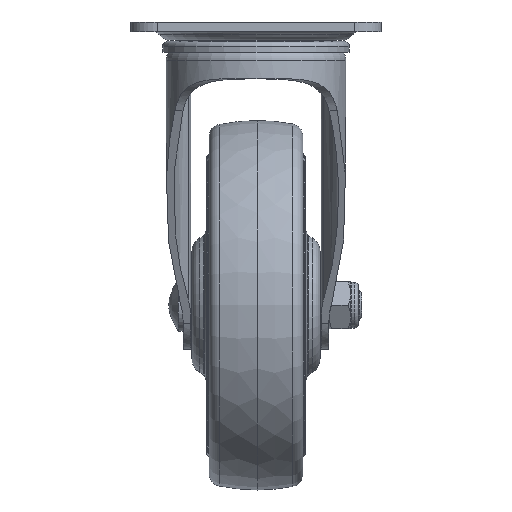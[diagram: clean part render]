
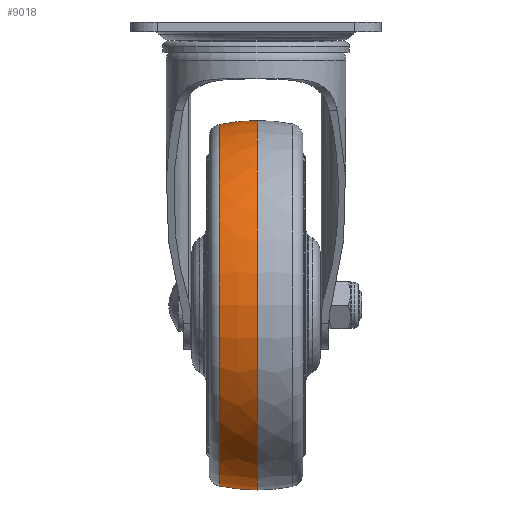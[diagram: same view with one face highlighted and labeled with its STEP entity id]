
A CAD part, left-side view. The second image highlights one B-rep face of the part: STEP entity #9018.
In plain terms, the highlighted free-form (B-spline) face has degree [2, 2] with [3, 9] control points.
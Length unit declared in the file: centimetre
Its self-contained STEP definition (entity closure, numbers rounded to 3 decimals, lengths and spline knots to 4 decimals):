
#1152=(
BOUNDED_CURVE()
B_SPLINE_CURVE(2,(#14911,#14912,#14913),.UNSPECIFIED.,.F.,.F.)
B_SPLINE_CURVE_WITH_KNOTS((3,3),(0.0063,0.2014),
 .UNSPECIFIED.)
CURVE()
GEOMETRIC_REPRESENTATION_ITEM()
RATIONAL_B_SPLINE_CURVE((1.,0.995,1.))
REPRESENTATION_ITEM('')
);
#1173=(
BOUNDED_SURFACE()
B_SPLINE_SURFACE(2,2,((#14880,#14881,#14882,#14883,#14884,#14885,#14886,
#14887,#14888),(#14889,#14890,#14891,#14892,#14893,#14894,#14895,#14896,
#14897),(#14898,#14899,#14900,#14901,#14902,#14903,#14904,#14905,#14906)),
 .UNSPECIFIED.,.F.,.T.,.F.)
B_SPLINE_SURFACE_WITH_KNOTS((3,3),(3,2,2,2,3),(-0.2014,-0.0063),
(-3.1416,-1.5708,0.,1.5708,3.1416),
 .UNSPECIFIED.)
GEOMETRIC_REPRESENTATION_ITEM()
RATIONAL_B_SPLINE_SURFACE(((1.,0.707,1.,0.707,1.,
0.707,1.,0.707,1.),(0.995,0.704,
0.995,0.704,0.995,0.704,
0.995,0.704,0.995),(1.,0.707,
1.,0.707,1.,0.707,1.,0.707,1.)))
REPRESENTATION_ITEM('')
SURFACE()
);
#2178=FACE_OUTER_BOUND('',#2774,.T.);
#2774=EDGE_LOOP('',(#6337,#6338,#6339,#6340,#6341,#6342));
#3516=CIRCLE('',#9691,7.3384);
#3517=CIRCLE('',#9692,7.3384);
#3518=CIRCLE('',#9693,7.4998);
#3519=CIRCLE('',#9694,7.4998);
#3926=VERTEX_POINT('',#14876);
#3927=VERTEX_POINT('',#14877);
#3928=VERTEX_POINT('',#14907);
#3929=VERTEX_POINT('',#14908);
#4865=EDGE_CURVE('',#3926,#3927,#3516,.T.);
#4866=EDGE_CURVE('',#3927,#3926,#3517,.T.);
#4867=EDGE_CURVE('',#3928,#3929,#3518,.T.);
#4868=EDGE_CURVE('',#3929,#3928,#3519,.T.);
#4869=EDGE_CURVE('',#3929,#3927,#1152,.T.);
#6337=ORIENTED_EDGE('',*,*,#4867,.F.);
#6338=ORIENTED_EDGE('',*,*,#4868,.F.);
#6339=ORIENTED_EDGE('',*,*,#4869,.T.);
#6340=ORIENTED_EDGE('',*,*,#4866,.T.);
#6341=ORIENTED_EDGE('',*,*,#4865,.T.);
#6342=ORIENTED_EDGE('',*,*,#4869,.F.);
#9018=ADVANCED_FACE('',(#2178),#1173,.F.);
#9691=AXIS2_PLACEMENT_3D('',#14878,#10710,#10711);
#9692=AXIS2_PLACEMENT_3D('',#14879,#10712,#10713);
#9693=AXIS2_PLACEMENT_3D('',#14909,#10714,#10715);
#9694=AXIS2_PLACEMENT_3D('',#14910,#10716,#10717);
#10710=DIRECTION('center_axis',(0.,-1.,0.));
#10711=DIRECTION('ref_axis',(0.,0.,
1.));
#10712=DIRECTION('center_axis',(0.,-1.,0.));
#10713=DIRECTION('ref_axis',(0.,0.,
1.));
#10714=DIRECTION('center_axis',(0.,-1.,0.));
#10715=DIRECTION('ref_axis',(0.,0.,
1.));
#10716=DIRECTION('center_axis',(0.,-1.,0.));
#10717=DIRECTION('ref_axis',(0.,0.,
1.));
#14876=CARTESIAN_POINT('',(1.9926,1.7036,2.4883));
#14877=CARTESIAN_POINT('',(1.9926,1.7036,-12.1885));
#14878=CARTESIAN_POINT('Origin',(1.9926,1.7036,-4.8501));
#14879=CARTESIAN_POINT('Origin',(1.9926,1.7036,-4.8501));
#14880=CARTESIAN_POINT('Ctrl Pts',(1.9926,1.7036,-12.1885));
#14881=CARTESIAN_POINT('Ctrl Pts',(9.3309,1.7036,-12.1885));
#14882=CARTESIAN_POINT('Ctrl Pts',(9.3309,1.7036,-4.8501));
#14883=CARTESIAN_POINT('Ctrl Pts',(9.3309,1.7036,2.4883));
#14884=CARTESIAN_POINT('Ctrl Pts',(1.9926,1.7036,2.4883));
#14885=CARTESIAN_POINT('Ctrl Pts',(-5.3458,1.7036,2.4883));
#14886=CARTESIAN_POINT('Ctrl Pts',(-5.3458,1.7036,-4.8501));
#14887=CARTESIAN_POINT('Ctrl Pts',(-5.3458,1.7036,-12.1885));
#14888=CARTESIAN_POINT('Ctrl Pts',(1.9926,1.7036,-12.1885));
#14889=CARTESIAN_POINT('Ctrl Pts',(1.9926,0.9365,-12.345));
#14890=CARTESIAN_POINT('Ctrl Pts',(9.4875,0.9365,-12.345));
#14891=CARTESIAN_POINT('Ctrl Pts',(9.4875,0.9365,-4.8501));
#14892=CARTESIAN_POINT('Ctrl Pts',(9.4875,0.9365,2.6449));
#14893=CARTESIAN_POINT('Ctrl Pts',(1.9926,0.9365,2.6449));
#14894=CARTESIAN_POINT('Ctrl Pts',(-5.5024,0.9365,
2.6449));
#14895=CARTESIAN_POINT('Ctrl Pts',(-5.5024,0.9365,
-4.8501));
#14896=CARTESIAN_POINT('Ctrl Pts',(-5.5024,0.9365,
-12.345));
#14897=CARTESIAN_POINT('Ctrl Pts',(1.9926,0.9365,-12.345));
#14898=CARTESIAN_POINT('Ctrl Pts',(1.9926,0.1536,-12.3499));
#14899=CARTESIAN_POINT('Ctrl Pts',(9.4924,0.1536,-12.3499));
#14900=CARTESIAN_POINT('Ctrl Pts',(9.4924,0.1536,-4.8501));
#14901=CARTESIAN_POINT('Ctrl Pts',(9.4924,0.1536,2.6497));
#14902=CARTESIAN_POINT('Ctrl Pts',(1.9926,0.1536,2.6497));
#14903=CARTESIAN_POINT('Ctrl Pts',(-5.5073,0.1536,
2.6497));
#14904=CARTESIAN_POINT('Ctrl Pts',(-5.5073,0.1536,
-4.8501));
#14905=CARTESIAN_POINT('Ctrl Pts',(-5.5073,0.1536,
-12.3499));
#14906=CARTESIAN_POINT('Ctrl Pts',(1.9926,0.1536,-12.3499));
#14907=CARTESIAN_POINT('',(1.9926,0.1536,2.6497));
#14908=CARTESIAN_POINT('',(1.9926,0.1536,-12.3499));
#14909=CARTESIAN_POINT('Origin',(1.9926,0.1536,-4.8501));
#14910=CARTESIAN_POINT('Origin',(1.9926,0.1536,-4.8501));
#14911=CARTESIAN_POINT('Ctrl Pts',(1.9926,0.1536,-12.3499));
#14912=CARTESIAN_POINT('Ctrl Pts',(1.9926,0.9365,-12.345));
#14913=CARTESIAN_POINT('Ctrl Pts',(1.9926,1.7036,-12.1885));
